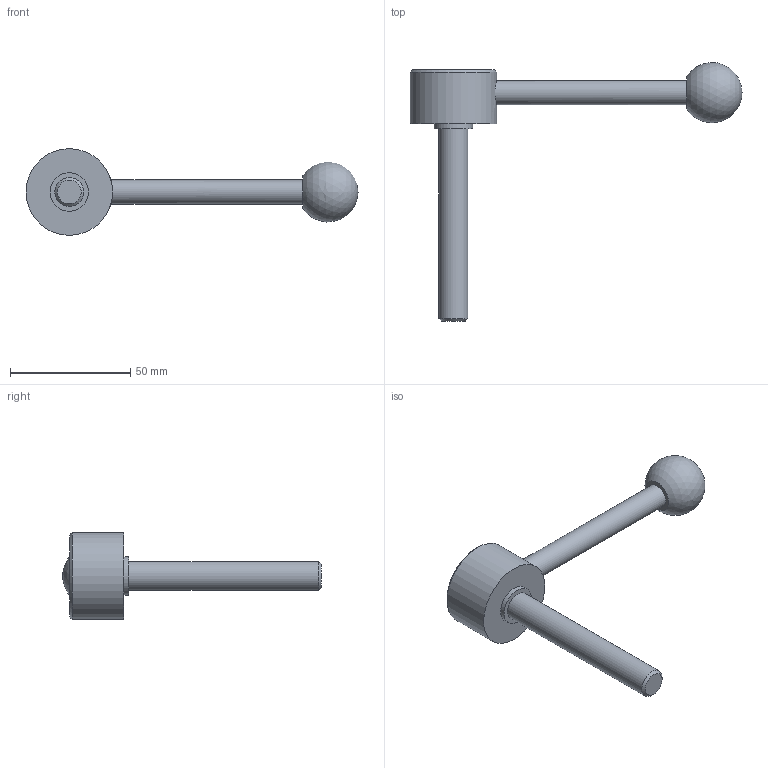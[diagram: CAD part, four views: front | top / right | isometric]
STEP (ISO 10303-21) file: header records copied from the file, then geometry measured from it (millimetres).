
FILE_DESCRIPTION( ( 'STEP AP203' ), '1' );
FILE_NAME( 'C:/Temp/Ganter_Step_05_03_2020/data/2_1/gn_125/gn_125_ms/gn_125_ms_d/Flat Adjustable Lever GN 125-36-M12-80-D.stp', '2020-03-05T11:00:50', ( 'License CC BY-ND 4.0' ), ( 'CADENAS' ), ' ', 'PARTsolutions', ' ' );
FILE_SCHEMA( ( 'CONFIG_CONTROL_DESIGN' ) );
Length unit declared in the file: millimetre
Products named in the file (1): _Flat Adjustable Lever GN 125-36-M12-80-D
Bounding box: 138 x 107.38 x 36 mm (x, y, z)
Volume: 46393.5 mm3; surface area: 11910.4 mm2
Topology: 1 solids, 1 shells, 14 faces, 23 edges, 15 vertices
Faces by surface type: plane 6, cylinder 5, cone 2, sphere 1
Full cylindrical faces by diameter (mm): 10 x1, 12 x1, 16 x1, 26 x1, 36 x1
Entity records: 392 total; most frequent: CARTESIAN_POINT 115, DIRECTION 54, AXIS2_PLACEMENT_3D 27, EDGE_LOOP 26, ORIENTED_EDGE 26, FACE_OUTER_BOUND 19, ADVANCED_FACE 14, VERTEX_POINT 14
